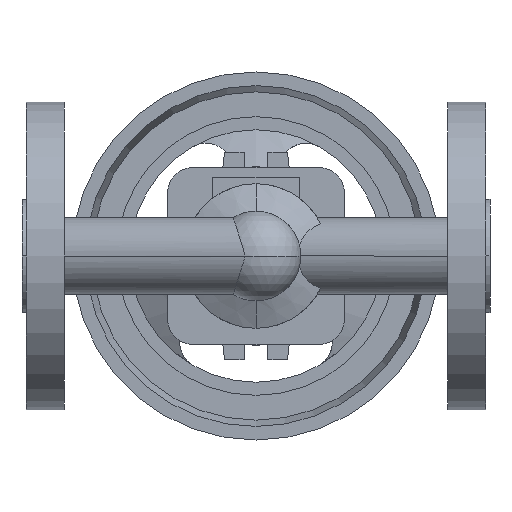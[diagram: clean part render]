
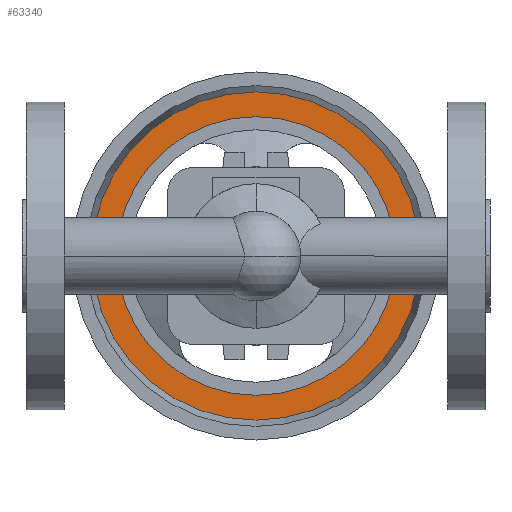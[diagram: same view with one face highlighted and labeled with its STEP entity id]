
A CAD part, front view. The second image highlights one B-rep face of the part: STEP entity #63340.
In plain terms, the highlighted planar face has unit normal (0, -1, 0).
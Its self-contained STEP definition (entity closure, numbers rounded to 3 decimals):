
#62790=CARTESIAN_POINT('',(26.588,235.2,0.));
#62800=VERTEX_POINT('',#62790);
#62830=CARTESIAN_POINT('',(89.,235.2,0.));
#62840=DIRECTION('',(0.,1.,0.));
#62850=DIRECTION('',(-1.,0.,0.));
#62860=AXIS2_PLACEMENT_3D('',#62830,#62840,#62850);
#62870=CIRCLE('',#62860,62.412);
#62880=CARTESIAN_POINT('',(151.412,235.2,0.)
);
#62890=VERTEX_POINT('',#62880);
#62900=EDGE_CURVE('',#62890,#62800,#62870,.T.);
#63090=CARTESIAN_POINT('',(31.294,235.2,0.))
;
#63100=DIRECTION('',(0.,-1.,0.));
#63110=DIRECTION('',(1.,0.,0.));
#63120=AXIS2_PLACEMENT_3D('',#63090,#63100,#63110);
#63130=PLANE('',#63120);
#63140=EDGE_CURVE('',#62800,#62890,#62870,.T.);
#63150=ORIENTED_EDGE('',*,*,#63140,.F.);
#63160=ORIENTED_EDGE('',*,*,#62900,.F.);
#63170=EDGE_LOOP('',(#63160,#63150));
#63180=FACE_OUTER_BOUND('',#63170,.T.);
#63190=CARTESIAN_POINT('',(89.,235.2,0.));
#63200=DIRECTION('',(0.,1.,0.));
#63210=DIRECTION('',(-1.,0.,0.));
#63220=AXIS2_PLACEMENT_3D('',#63190,#63200,#63210);
#63230=CIRCLE('',#63220,53.);
#63240=CARTESIAN_POINT('',(142.,235.2,0.));
#63250=VERTEX_POINT('',#63240);
#63260=CARTESIAN_POINT('',(36.,235.2,0.));
#63270=VERTEX_POINT('',#63260);
#63280=EDGE_CURVE('',#63250,#63270,#63230,.T.);
#63290=ORIENTED_EDGE('',*,*,#63280,.T.);
#63300=EDGE_CURVE('',#63270,#63250,#63230,.T.);
#63310=ORIENTED_EDGE('',*,*,#63300,.T.);
#63320=EDGE_LOOP('',(#63310,#63290));
#63330=FACE_BOUND('',#63320,.T.);
#63340=ADVANCED_FACE('',(#63180,#63330),#63130,.T.);
